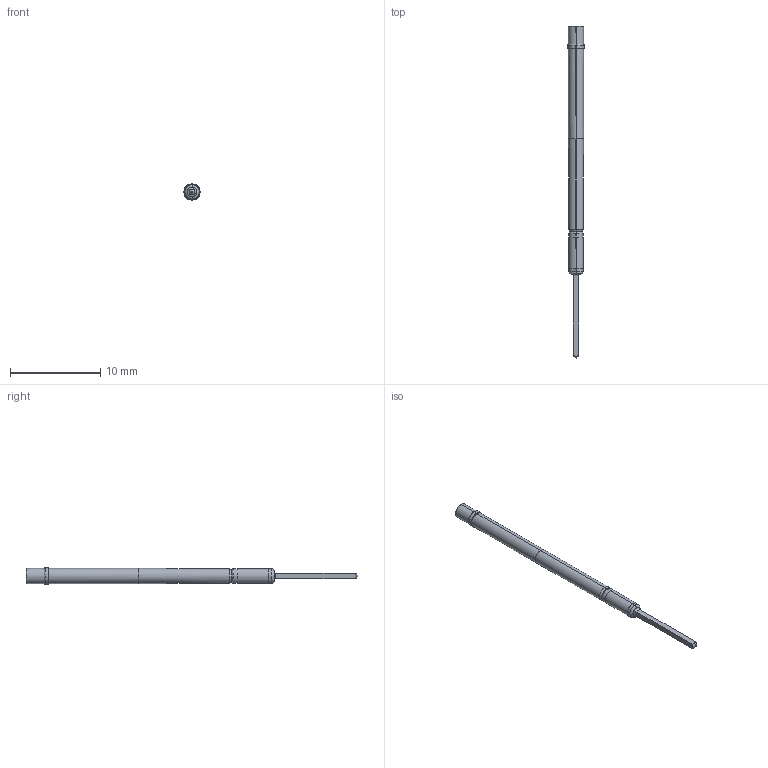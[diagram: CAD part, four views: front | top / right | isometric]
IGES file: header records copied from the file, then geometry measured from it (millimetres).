
Start section: SolidWorks IGES file using analytic representation for surfaces
Global section: file name: \\CODA-VM-SBS\RedirectedFolders\georged\My Documents\Coda\RA Series\ATE\RA4W3.IGS; native system: SolidWorks 2022; preprocessor: SolidWorks 2022; author: GeorgeD; date: 220912.144903; units: millimetre
Bounding box: 1.8 x 36.8 x 1.8 mm (x, y, z)
Surface area: 169.3 mm2 (no closed solid volume)
Topology: 0 solids, 0 shells, 41 faces, 330 edges, 330 vertices
Faces by surface type: revolution 24, bspline 17
